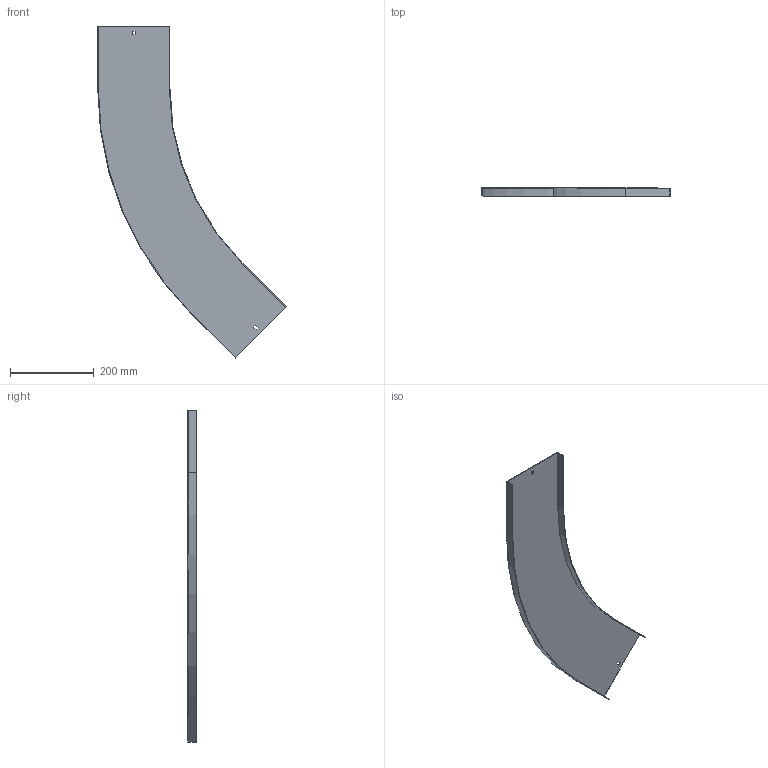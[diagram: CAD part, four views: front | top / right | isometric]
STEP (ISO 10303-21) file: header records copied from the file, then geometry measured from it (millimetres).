
FILE_DESCRIPTION (( 'STEP AP214' ), '1' );
FILE_NAME ('11N6P150.step', '2025-02-21T13:35:22', ( '' ), ( '' ), 'SwSTEP 2.0', 'SolidWorks 2023', '' );
FILE_SCHEMA (( 'AUTOMOTIVE_DESIGN' ));
Length unit declared in the file: millimetre
Products named in the file (1): 11N6P150
Bounding box: 451.43 x 20 x 794.53 mm (x, y, z)
Volume: 261319.8 mm3; surface area: 351639.8 mm2
Topology: 1 solids, 1 shells, 26 faces, 72 edges, 48 vertices
Faces by surface type: plane 22, cylinder 4
Entity records: 855 total; most frequent: CARTESIAN_POINT 147, ORIENTED_EDGE 144, DIRECTION 134, EDGE_CURVE 72, VECTOR 64, LINE 64, VERTEX_POINT 48, AXIS2_PLACEMENT_3D 35
